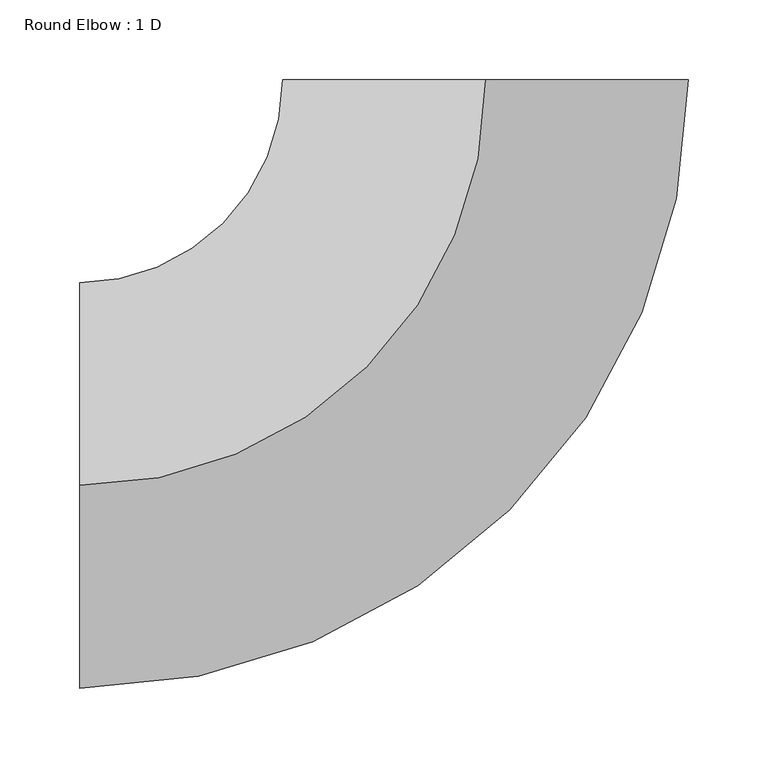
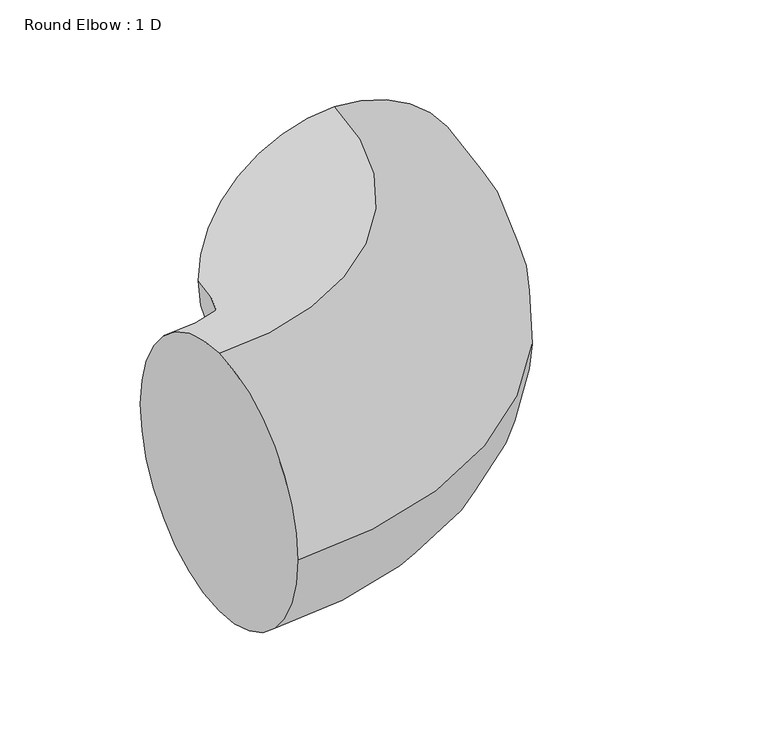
"""IFC4 building model written with IfcOpenShell, lengths in millimetres: duct fitting geometry, Round Elbow : 1 D."""

from ifc_helpers import new_model, si_unit, point, frame, origin, place, context, project, spatial, circle_curve, ellipse_curve, trimmed, source, transform, mapped, element, save
from ifc_brep_helpers import plane_surface, revolved_surface, advanced_brep


def round_elbow_1_d_6fec3262(model_context):
    return source(origin(), model_context, "Body", "AdvancedBrep", [
        advanced_brep(
        [(-254.0, 0.0, 127.0), (-254.0, 127.0, 0.0), (-254.0, 0.0, -127.0), (-254.0, -127.0, 0.0), (0.0, 254.0, 127.0), (127.0, 254.0, 0.0), (0.0, 254.0, -127.0), (-127.0, 254.0, 0.0)],
        [
            (0, 1, circle_curve(frame((-254.0, 0.0, 0.0), z_axis=(-1.0, 0.0, 0.0), x_axis=(0.0, 1.0, 0.0)), 127.0)),
            (1, 2, circle_curve(frame((-254.0, 0.0, 0.0), z_axis=(-1.0, 0.0, 0.0), x_axis=(0.0, 1.0, 0.0)), 127.0)),
            (2, 3, circle_curve(frame((-254.0, 0.0, 0.0), z_axis=(-1.0, 0.0, 0.0), x_axis=(0.0, 1.0, 0.0)), 127.0)),
            (3, 0, circle_curve(frame((-254.0, 0.0, 0.0), z_axis=(-1.0, 0.0, 0.0), x_axis=(0.0, 1.0, 0.0)), 127.0)),
            (4, 5, circle_curve(frame((0.0, 254.0, 0.0), z_axis=(0.0, 1.0, 0.0), x_axis=(-1.0, 0.0, 0.0)), 127.0)),
            (5, 6, circle_curve(frame((0.0, 254.0, 0.0), z_axis=(0.0, 1.0, 0.0), x_axis=(-1.0, 0.0, 0.0)), 127.0)),
            (6, 7, circle_curve(frame((0.0, 254.0, 0.0), z_axis=(0.0, 1.0, 0.0), x_axis=(-1.0, 0.0, 0.0)), 127.0)),
            (7, 4, circle_curve(frame((0.0, 254.0, 0.0), z_axis=(0.0, 1.0, 0.0), x_axis=(-1.0, 0.0, 0.0)), 127.0)),
            (7, 1, circle_curve(frame((-254.0, 254.0, 0.0), z_axis=(0.0, 0.0, -1.0), x_axis=(0.0, -1.0, 0.0)), 127.0)),
            (0, 4, circle_curve(frame((-254.0, 254.0, 127.0), z_axis=(0.0, 0.0, 1.0), x_axis=(0.0, -1.0, 0.0)), 254.0)),
            (6, 2, circle_curve(frame((-254.0, 254.0, -127.0), z_axis=(0.0, 0.0, -1.0), x_axis=(0.0, -1.0, 0.0)), 254.0)),
            (5, 3, circle_curve(frame((-254.0, 254.0, 0.0), z_axis=(0.0, 0.0, -1.0), x_axis=(0.0, -1.0, 0.0)), 381.0)),
        ],
        [
            plane_surface(frame((-254.0, 0.0, 0.0), z_axis=(-1.0, 0.0, 0.0), x_axis=(0.0, 0.0, 1.0))),
            plane_surface(frame((0.0, 254.0, 0.0), z_axis=(0.0, 1.0, 0.0), x_axis=(0.0, 0.0, 1.0))),
            revolved_surface(trimmed(ellipse_curve(frame((-254.0, 0.0, 0.0), z_axis=(-1.0, 0.0, 0.0), x_axis=(0.0, 1.0, 0.0)), 127.0, 127.0), [point((-254.0, 0.0, 127.0))], [point((-254.0, 127.0, 0.0))], True, "CARTESIAN"), (-254.0, 254.0, 0.0), (0.0, 0.0, 1.0)),
            revolved_surface(trimmed(ellipse_curve(frame((-254.0, 0.0, 0.0), z_axis=(-1.0, 0.0, 0.0), x_axis=(0.0, 1.0, 0.0)), 127.0, 127.0), [point((-254.0, 127.0, 0.0))], [point((-254.0, 0.0, -127.0))], True, "CARTESIAN"), (-254.0, 254.0, 0.0), (0.0, 0.0, 1.0)),
            revolved_surface(trimmed(ellipse_curve(frame((-254.0, 0.0, 0.0), z_axis=(-1.0, 0.0, 0.0), x_axis=(0.0, 1.0, 0.0)), 127.0, 127.0), [point((-254.0, 0.0, -127.0))], [point((-254.0, -127.0, 0.0))], True, "CARTESIAN"), (-254.0, 254.0, 0.0), (0.0, 0.0, 1.0)),
            revolved_surface(trimmed(ellipse_curve(frame((-254.0, 0.0, 0.0), z_axis=(-1.0, 0.0, 0.0), x_axis=(0.0, 1.0, 0.0)), 127.0, 127.0), [point((-254.0, -127.0, 0.0))], [point((-254.0, 0.0, 127.0))], True, "CARTESIAN"), (-254.0, 254.0, 0.0), (0.0, 0.0, 1.0)),
        ],
        [
            (0, [[1, 2, 3, 4]]),
            (1, [[5, 6, 7, 8]]),
            (2, [[9, -1, 10, -8]]),
            (3, [[11, -2, -9, -7]]),
            (4, [[12, -3, -11, -6]]),
            (5, [[-10, -4, -12, -5]]),
        ],
    ),
    ])


if __name__ == "__main__":
    model = new_model("IFC4")
    model_context = context("Model", 3, world=origin())
    ifc_project = project(units=[si_unit("LENGTHUNIT", "METRE", prefix="MILLI")], contexts=[model_context])
    site = spatial("IfcSite", under=ifc_project)
    building = spatial("IfcBuilding", under=site)
    placement = place(None, origin())
    round_elbow_1_d_shape = round_elbow_1_d_6fec3262(model_context)
    element("IfcDuctFitting", 1, ObjectType="Round Elbow : 1 D", at=placement, inside=building, context=model_context, shape_type="MappedRepresentation", body=[
        mapped(round_elbow_1_d_shape, transform((0.0, 0.0, 0.0), x_axis=(1.0, 0.0, 0.0), y_axis=(0.0, 1.0, 0.0), z_axis=(0.0, 0.0, 1.0))),
    ])
    save(model, "model.ifc")
